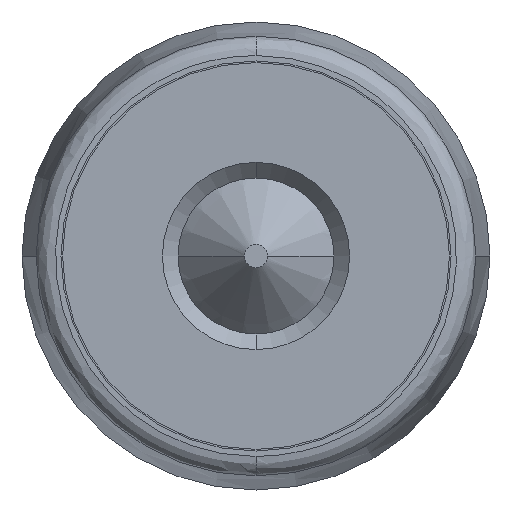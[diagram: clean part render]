
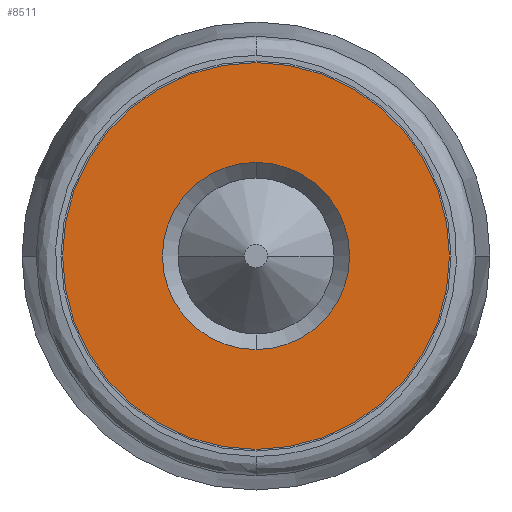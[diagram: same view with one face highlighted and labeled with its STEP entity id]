
A CAD part, front view. The second image highlights one B-rep face of the part: STEP entity #8511.
In plain terms, the highlighted planar face has unit normal (0, -1, 0).
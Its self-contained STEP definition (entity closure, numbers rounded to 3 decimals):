
#194 = ORIENTED_EDGE ( 'NONE', *, *, #16022, .T. ) ;
#710 = ORIENTED_EDGE ( 'NONE', *, *, #16232, .F. ) ;
#786 = DIRECTION ( 'NONE',  ( 0., 1., 0. ) ) ;
#819 = CARTESIAN_POINT ( 'NONE',  ( 0., 0.15, 0. ) ) ;
#1745 = EDGE_LOOP ( 'NONE', ( #194, #15547 ) ) ;
#1863 = AXIS2_PLACEMENT_3D ( 'NONE', #15083, #786, #12671 ) ;
#1957 = CIRCLE ( 'NONE', #8528, 2.5 ) ;
#2271 = CARTESIAN_POINT ( 'NONE',  ( 0., 0.15, 0. ) ) ;
#2341 = AXIS2_PLACEMENT_3D ( 'NONE', #14271, #14022, #8903 ) ;
#2864 = PLANE ( 'NONE',  #16012 ) ;
#2931 = FACE_BOUND ( 'NONE', #1745, .T. ) ;
#3051 = EDGE_CURVE ( 'NONE', #10812, #16119, #15162, .T. ) ;
#3631 = CIRCLE ( 'NONE', #2341, 1.2 ) ;
#3883 = VERTEX_POINT ( 'NONE', #16953 ) ;
#5448 = DIRECTION ( 'NONE',  ( 0., 0., 1. ) ) ;
#6340 = DIRECTION ( 'NONE',  ( 0., 0., 1. ) ) ;
#6643 = CIRCLE ( 'NONE', #9586, 2.5 ) ;
#8034 = CARTESIAN_POINT ( 'NONE',  ( -2.562, 0.15, -10. ) ) ;
#8323 = VERTEX_POINT ( 'NONE', #12487 ) ;
#8511 = ADVANCED_FACE ( 'NONE', ( #2931, #11582 ), #2864, .F. ) ;
#8528 = AXIS2_PLACEMENT_3D ( 'NONE', #2271, #13035, #16137 ) ;
#8903 = DIRECTION ( 'NONE',  ( 0., 0., 1. ) ) ;
#9160 = EDGE_CURVE ( 'NONE', #3883, #8323, #6643, .T. ) ;
#9586 = AXIS2_PLACEMENT_3D ( 'NONE', #819, #17048, #6340 ) ;
#10812 = VERTEX_POINT ( 'NONE', #11894 ) ;
#11582 = FACE_OUTER_BOUND ( 'NONE', #11724, .T. ) ;
#11631 = CARTESIAN_POINT ( 'NONE',  ( 0., 0.15, -1.2 ) ) ;
#11724 = EDGE_LOOP ( 'NONE', ( #11993, #710 ) ) ;
#11894 = CARTESIAN_POINT ( 'NONE',  ( 0., 0.15, 1.2 ) ) ;
#11993 = ORIENTED_EDGE ( 'NONE', *, *, #9160, .F. ) ;
#12487 = CARTESIAN_POINT ( 'NONE',  ( 0., 0.15, -2.5 ) ) ;
#12671 = DIRECTION ( 'NONE',  ( 0., 0., 1. ) ) ;
#13035 = DIRECTION ( 'NONE',  ( 0., 1., 0. ) ) ;
#14022 = DIRECTION ( 'NONE',  ( 0., 1., 0. ) ) ;
#14271 = CARTESIAN_POINT ( 'NONE',  ( 0., 0.15, 0. ) ) ;
#15083 = CARTESIAN_POINT ( 'NONE',  ( 0., 0.15, 0. ) ) ;
#15162 = CIRCLE ( 'NONE', #1863, 1.2 ) ;
#15547 = ORIENTED_EDGE ( 'NONE', *, *, #3051, .T. ) ;
#16012 = AXIS2_PLACEMENT_3D ( 'NONE', #8034, #17461, #5448 ) ;
#16022 = EDGE_CURVE ( 'NONE', #16119, #10812, #3631, .T. ) ;
#16119 = VERTEX_POINT ( 'NONE', #11631 ) ;
#16137 = DIRECTION ( 'NONE',  ( 0., 0., 1. ) ) ;
#16232 = EDGE_CURVE ( 'NONE', #8323, #3883, #1957, .T. ) ;
#16953 = CARTESIAN_POINT ( 'NONE',  ( 0., 0.15, 2.5 ) ) ;
#17048 = DIRECTION ( 'NONE',  ( 0., 1., 0. ) ) ;
#17461 = DIRECTION ( 'NONE',  ( 0., 1., 0. ) ) ;
